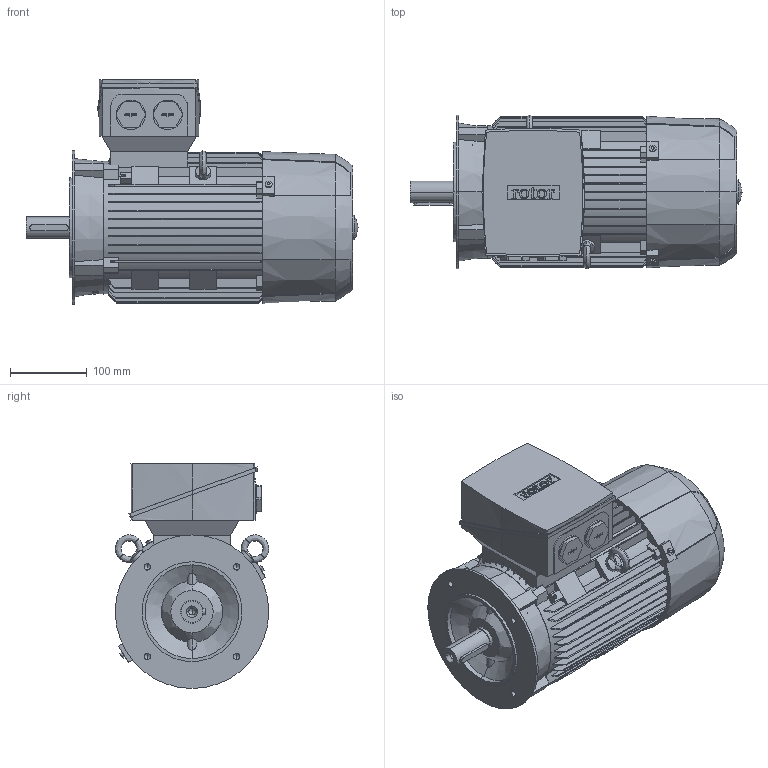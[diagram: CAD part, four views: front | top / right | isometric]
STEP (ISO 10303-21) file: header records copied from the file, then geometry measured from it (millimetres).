
FILE_DESCRIPTION (( 'STEP AP214' ), '1' );
FILE_NAME ('6RN100L02E44 IM3641-B.STEP', '2017-01-12T13:48:24', ( 'rbc_ict' ), ( 'Microsoft' ), 'SwSTEP 2.0', 'SolidWorks 2015', '' );
FILE_SCHEMA (( 'AUTOMOTIVE_DESIGN' ));
Length unit declared in the file: millimetre
Products named in the file (1): 6RN100L02E44 IM3641-B
Bounding box: 432.5 x 200.12 x 293 mm (x, y, z)
Volume: 11405027.9 mm3; surface area: 581155.4 mm2
Topology: 1 solids, 1 shells, 758 faces, 2102 edges, 1381 vertices
Faces by surface type: plane 422, bspline 154, cylinder 144, cone 38
Entity records: 36088 total; most frequent: CARTESIAN_POINT 10515, ORIENTED_EDGE 4180, DIRECTION 3227, EDGE_CURVE 2090, VERTEX_POINT 1381, VECTOR 1133, LINE 1133, AXIS2_PLACEMENT_3D 1047
